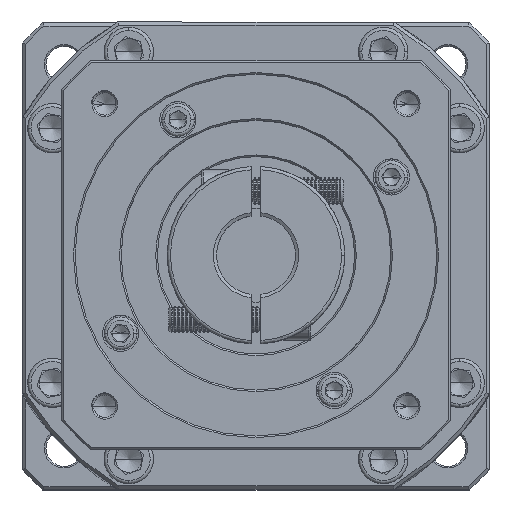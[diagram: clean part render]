
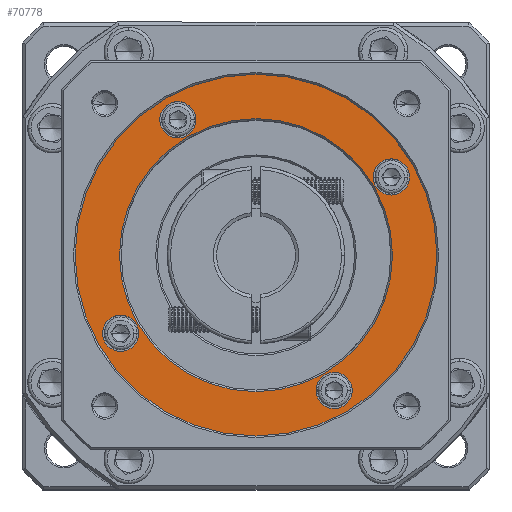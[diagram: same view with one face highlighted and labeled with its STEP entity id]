
A CAD part, top view. The second image highlights one B-rep face of the part: STEP entity #70778.
In plain terms, the highlighted planar face has unit normal (0, 0, 1).
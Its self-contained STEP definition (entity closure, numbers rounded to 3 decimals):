
#1514 = AXIS2_PLACEMENT_3D ( 'NONE', #42389, #111715, #122073 ) ;
#2400 = VERTEX_POINT ( 'NONE', #82598 ) ;
#3540 = CARTESIAN_POINT ( 'NONE',  ( -89.146, 48.251, 50.541 ) ) ;
#8201 = ORIENTED_EDGE ( 'NONE', *, *, #37468, .T. ) ;
#9529 = EDGE_CURVE ( 'NONE', #2400, #26617, #113699, .T. ) ;
#10108 = CIRCLE ( 'NONE', #41731, 5.5 ) ;
#11161 = DIRECTION ( 'NONE',  ( 0., -1., 0. ) ) ;
#12613 = DIRECTION ( 'NONE',  ( 1., 0., 0. ) ) ;
#14401 = EDGE_CURVE ( 'NONE', #49447, #100900, #80780, .T. ) ;
#14421 = DIRECTION ( 'NONE',  ( 0., 0., -1. ) ) ;
#17044 = AXIS2_PLACEMENT_3D ( 'NONE', #81519, #21898, #121515 ) ;
#19503 = VERTEX_POINT ( 'NONE', #63998 ) ;
#21413 = VERTEX_POINT ( 'NONE', #121103 ) ;
#21898 = DIRECTION ( 'NONE',  ( 0., 0., -1. ) ) ;
#22381 = VERTEX_POINT ( 'NONE', #29453 ) ;
#23359 = ORIENTED_EDGE ( 'NONE', *, *, #75030, .T. ) ;
#24143 = FACE_BOUND ( 'NONE', #41230, .T. ) ;
#24238 = VERTEX_POINT ( 'NONE', #40144 ) ;
#24990 = DIRECTION ( 'NONE',  ( 0., 0., -1. ) ) ;
#26304 = ORIENTED_EDGE ( 'NONE', *, *, #41627, .T. ) ;
#26617 = VERTEX_POINT ( 'NONE', #111820 ) ;
#27658 = CIRCLE ( 'NONE', #35586, 5.5 ) ;
#28780 = ORIENTED_EDGE ( 'NONE', *, *, #31468, .T. ) ;
#29453 = CARTESIAN_POINT ( 'NONE',  ( -160.418, 0.751, 50.541 ) ) ;
#29960 = ORIENTED_EDGE ( 'NONE', *, *, #40780, .T. ) ;
#30839 = DIRECTION ( 'NONE',  ( 0., 0., -1. ) ) ;
#31468 = EDGE_CURVE ( 'NONE', #21413, #99600, #86679, .T. ) ;
#33549 = ORIENTED_EDGE ( 'NONE', *, *, #84130, .T. ) ;
#34785 = CARTESIAN_POINT ( 'NONE',  ( -165.918, 0.751, 50.541 ) ) ;
#35114 = EDGE_LOOP ( 'NONE', ( #74127, #112707 ) ) ;
#35586 = AXIS2_PLACEMENT_3D ( 'NONE', #90835, #89539, #50247 ) ;
#36893 = CARTESIAN_POINT ( 'NONE',  ( -83.646, 48.251, 50.541 ) ) ;
#37468 = EDGE_CURVE ( 'NONE', #40881, #24238, #10108, .T. ) ;
#40144 = CARTESIAN_POINT ( 'NONE',  ( -143.032, 65.637, 50.541 ) ) ;
#40780 = EDGE_CURVE ( 'NONE', #62989, #68871, #113749, .T. ) ;
#40838 = CARTESIAN_POINT ( 'NONE',  ( -83.646, 48.251, 50.541 ) ) ;
#40881 = VERTEX_POINT ( 'NONE', #127814 ) ;
#41230 = EDGE_LOOP ( 'NONE', ( #50993, #91645 ) ) ;
#41627 = EDGE_CURVE ( 'NONE', #24238, #40881, #43129, .T. ) ;
#41731 = AXIS2_PLACEMENT_3D ( 'NONE', #77032, #117492, #88796 ) ;
#42389 = CARTESIAN_POINT ( 'NONE',  ( -124.782, 24.501, 50.541 ) ) ;
#43129 = CIRCLE ( 'NONE', #109146, 5.5 ) ;
#43671 = DIRECTION ( 'NONE',  ( 1., 0., 0. ) ) ;
#44434 = DIRECTION ( 'NONE',  ( 0., 0., -1. ) ) ;
#45046 = AXIS2_PLACEMENT_3D ( 'NONE', #55409, #24990, #94292 ) ;
#45215 = DIRECTION ( 'NONE',  ( 1., 0., 0. ) ) ;
#48024 = AXIS2_PLACEMENT_3D ( 'NONE', #36893, #67019, #115743 ) ;
#49447 = VERTEX_POINT ( 'NONE', #94497 ) ;
#49474 = EDGE_CURVE ( 'NONE', #100900, #49447, #120360, .T. ) ;
#50247 = DIRECTION ( 'NONE',  ( 1., 0., 0. ) ) ;
#50993 = ORIENTED_EDGE ( 'NONE', *, *, #84090, .T. ) ;
#51099 = ORIENTED_EDGE ( 'NONE', *, *, #14401, .T. ) ;
#51886 = EDGE_CURVE ( 'NONE', #19503, #22381, #94188, .T. ) ;
#52086 = FACE_BOUND ( 'NONE', #61768, .T. ) ;
#52832 = PLANE ( 'NONE',  #77245 ) ;
#53782 = ORIENTED_EDGE ( 'NONE', *, *, #49474, .T. ) ;
#55409 = CARTESIAN_POINT ( 'NONE',  ( -101.032, -16.635, 50.541 ) ) ;
#61768 = EDGE_LOOP ( 'NONE', ( #23359, #29960 ) ) ;
#62945 = DIRECTION ( 'NONE',  ( 0., 0., 1. ) ) ;
#62989 = VERTEX_POINT ( 'NONE', #3540 ) ;
#63998 = CARTESIAN_POINT ( 'NONE',  ( -171.418, 0.751, 50.541 ) ) ;
#64869 = DIRECTION ( 'NONE',  ( 0., 0., 1. ) ) ;
#67019 = DIRECTION ( 'NONE',  ( 0., 0., -1. ) ) ;
#68871 = VERTEX_POINT ( 'NONE', #79713 ) ;
#70778 = ADVANCED_FACE ( 'NONE', ( #92668, #97403, #52086, #119014, #128357, #24143 ), #52832, .T. ) ;
#72697 = CIRCLE ( 'NONE', #17044, 5.5 ) ;
#73623 = EDGE_LOOP ( 'NONE', ( #26304, #8201 ) ) ;
#74127 = ORIENTED_EDGE ( 'NONE', *, *, #86466, .T. ) ;
#75030 = EDGE_CURVE ( 'NONE', #68871, #62989, #125712, .T. ) ;
#75209 = DIRECTION ( 'NONE',  ( 1., 0., 0. ) ) ;
#77032 = CARTESIAN_POINT ( 'NONE',  ( -148.532, 65.637, 50.541 ) ) ;
#77245 = AXIS2_PLACEMENT_3D ( 'NONE', #122475, #62945, #43671 ) ;
#79027 = CARTESIAN_POINT ( 'NONE',  ( -124.782, 24.501, 50.541 ) ) ;
#79467 = CARTESIAN_POINT ( 'NONE',  ( -179.782, 24.501, 50.541 ) ) ;
#79713 = CARTESIAN_POINT ( 'NONE',  ( -78.146, 48.251, 50.541 ) ) ;
#80780 = CIRCLE ( 'NONE', #111735, 55. ) ;
#81519 = CARTESIAN_POINT ( 'NONE',  ( -101.032, -16.635, 50.541 ) ) ;
#82598 = CARTESIAN_POINT ( 'NONE',  ( -106.532, -16.635, 50.541 ) ) ;
#84090 = EDGE_CURVE ( 'NONE', #22381, #19503, #27658, .T. ) ;
#84130 = EDGE_CURVE ( 'NONE', #99600, #21413, #93060, .T. ) ;
#84718 = AXIS2_PLACEMENT_3D ( 'NONE', #34785, #14421, #45215 ) ;
#86466 = EDGE_CURVE ( 'NONE', #26617, #2400, #72697, .T. ) ;
#86679 = CIRCLE ( 'NONE', #1514, 41.5 ) ;
#88796 = DIRECTION ( 'NONE',  ( 1., 0., 0. ) ) ;
#89539 = DIRECTION ( 'NONE',  ( 0., 0., -1. ) ) ;
#90835 = CARTESIAN_POINT ( 'NONE',  ( -165.918, 0.751, 50.541 ) ) ;
#91645 = ORIENTED_EDGE ( 'NONE', *, *, #51886, .T. ) ;
#92251 = CARTESIAN_POINT ( 'NONE',  ( -124.782, 66.001, 50.541 ) ) ;
#92668 = FACE_OUTER_BOUND ( 'NONE', #101959, .T. ) ;
#93060 = CIRCLE ( 'NONE', #126501, 41.5 ) ;
#94188 = CIRCLE ( 'NONE', #84718, 5.5 ) ;
#94206 = CARTESIAN_POINT ( 'NONE',  ( -148.532, 65.637, 50.541 ) ) ;
#94292 = DIRECTION ( 'NONE',  ( 1., 0., 0. ) ) ;
#94497 = CARTESIAN_POINT ( 'NONE',  ( -69.782, 24.501, 50.541 ) ) ;
#94680 = AXIS2_PLACEMENT_3D ( 'NONE', #40838, #30839, #12613 ) ;
#96030 = EDGE_LOOP ( 'NONE', ( #28780, #33549 ) ) ;
#97403 = FACE_BOUND ( 'NONE', #96030, .T. ) ;
#99113 = DIRECTION ( 'NONE',  ( 0., 0., -1. ) ) ;
#99600 = VERTEX_POINT ( 'NONE', #92251 ) ;
#100900 = VERTEX_POINT ( 'NONE', #79467 ) ;
#101959 = EDGE_LOOP ( 'NONE', ( #51099, #53782 ) ) ;
#109146 = AXIS2_PLACEMENT_3D ( 'NONE', #94206, #44434, #114163 ) ;
#111715 = DIRECTION ( 'NONE',  ( 0., 0., -1. ) ) ;
#111735 = AXIS2_PLACEMENT_3D ( 'NONE', #128014, #118468, #118034 ) ;
#111820 = CARTESIAN_POINT ( 'NONE',  ( -95.532, -16.635, 50.541 ) ) ;
#112707 = ORIENTED_EDGE ( 'NONE', *, *, #9529, .T. ) ;
#113699 = CIRCLE ( 'NONE', #45046, 5.5 ) ;
#113749 = CIRCLE ( 'NONE', #48024, 5.5 ) ;
#114163 = DIRECTION ( 'NONE',  ( 1., 0., 0. ) ) ;
#114451 = CARTESIAN_POINT ( 'NONE',  ( -124.782, 24.501, 50.541 ) ) ;
#114457 = AXIS2_PLACEMENT_3D ( 'NONE', #114451, #64869, #75209 ) ;
#115743 = DIRECTION ( 'NONE',  ( 1., 0., 0. ) ) ;
#117492 = DIRECTION ( 'NONE',  ( 0., 0., -1. ) ) ;
#118034 = DIRECTION ( 'NONE',  ( 1., 0., 0. ) ) ;
#118468 = DIRECTION ( 'NONE',  ( 0., 0., 1. ) ) ;
#119014 = FACE_BOUND ( 'NONE', #35114, .T. ) ;
#120360 = CIRCLE ( 'NONE', #114457, 55. ) ;
#121103 = CARTESIAN_POINT ( 'NONE',  ( -124.782, -16.999, 50.541 ) ) ;
#121515 = DIRECTION ( 'NONE',  ( 1., 0., 0. ) ) ;
#122073 = DIRECTION ( 'NONE',  ( 0., -1., 0. ) ) ;
#122475 = CARTESIAN_POINT ( 'NONE',  ( -124.782, 24.501, 50.541 ) ) ;
#125712 = CIRCLE ( 'NONE', #94680, 5.5 ) ;
#126501 = AXIS2_PLACEMENT_3D ( 'NONE', #79027, #99113, #11161 ) ;
#127814 = CARTESIAN_POINT ( 'NONE',  ( -154.032, 65.637, 50.541 ) ) ;
#128014 = CARTESIAN_POINT ( 'NONE',  ( -124.782, 24.501, 50.541 ) ) ;
#128357 = FACE_BOUND ( 'NONE', #73623, .T. ) ;
